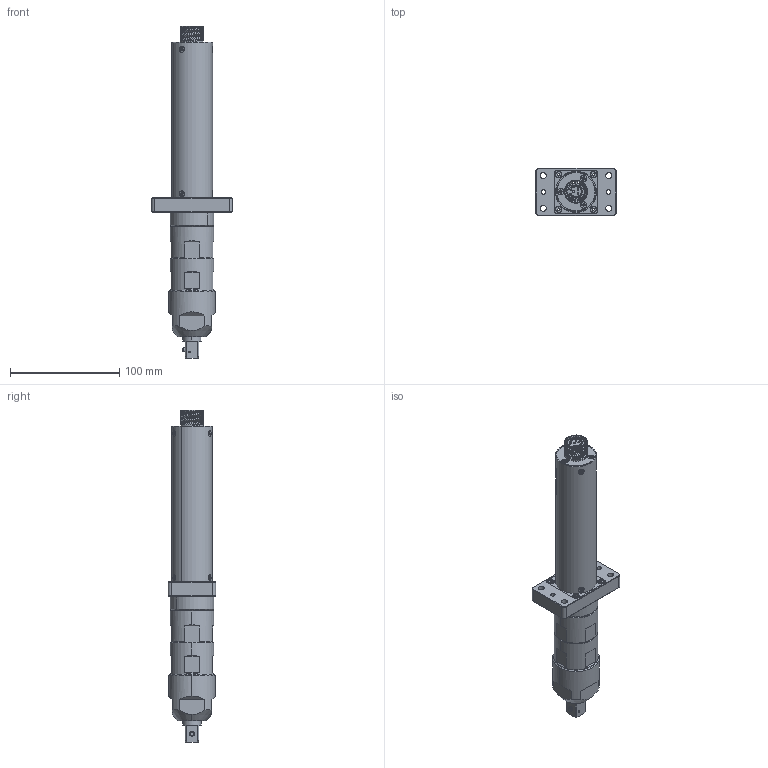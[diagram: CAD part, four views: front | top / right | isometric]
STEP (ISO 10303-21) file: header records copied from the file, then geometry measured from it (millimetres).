
FILE_DESCRIPTION (( 'STEP AP203' ), '1' );
FILE_NAME ('EXT-MDA3236,3264-Q1_2.STEP', '2023-02-16T08:48:24', ( '' ), ( '' ), 'SwSTEP 2.0', 'SolidWorks 2021', '' );
FILE_SCHEMA (( 'CONFIG_CONTROL_DESIGN' ));
Length unit declared in the file: millimetre
Products named in the file (1): EXT-MDA3236,3264-Q1_2
Bounding box: 74 x 43.4 x 304.25 mm (x, y, z)
Surface area: 54569.8 mm2 (no closed solid volume)
Topology: 0 solids, 45 shells, 482 faces, 1670 edges, 1183 vertices
Faces by surface type: plane 211, cylinder 173, cone 80, bspline 10, torus 8
Entity records: 26144 total; most frequent: CARTESIAN_POINT 12362, DIRECTION 2734, ORIENTED_EDGE 2613, EDGE_CURVE 1670, VERTEX_POINT 1183, AXIS2_PLACEMENT_3D 1014, VECTOR 706, LINE 706
